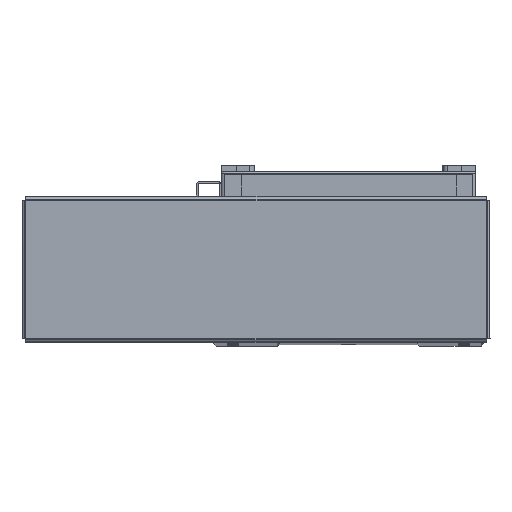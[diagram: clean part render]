
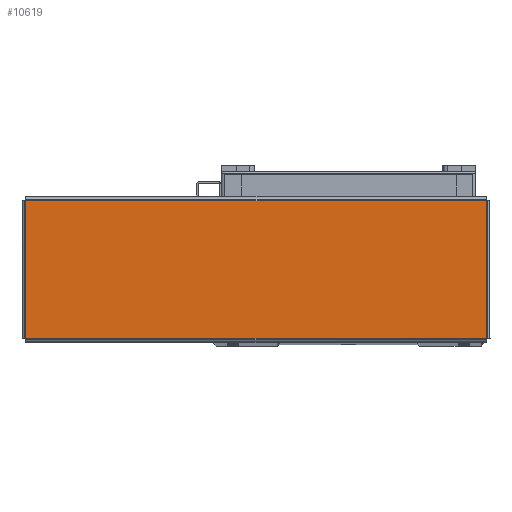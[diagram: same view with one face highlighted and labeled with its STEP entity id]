
A CAD part, top view. The second image highlights one B-rep face of the part: STEP entity #10619.
In plain terms, the highlighted planar face has unit normal (0, 0, 1) as drawn and (0, -1, 0) by its records, which use the part's own axes.
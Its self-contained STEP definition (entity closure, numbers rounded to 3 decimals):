
#9766 = PLANE ( 'NONE',  #17565 ) ;
#9768 = CARTESIAN_POINT ( 'NONE',  ( 0., -1.5, 0. ) ) ;
#9773 = DIRECTION ( 'NONE',  ( 0., 1., 0. ) ) ;
#9774 = DIRECTION ( 'NONE',  ( 0., 0., 1. ) ) ;
#10619 = ADVANCED_FACE ( 'NONE', ( #27355 ), #9766, .F. ) ;
#12546 = DIRECTION ( 'NONE',  ( 0., 0., -1. ) ) ;
#12617 = CARTESIAN_POINT ( 'NONE',  ( -139.263, -1.5, 41.793 ) ) ;
#13525 = CARTESIAN_POINT ( 'NONE',  ( -139.293, -1.5, -41.763 ) ) ;
#13588 = DIRECTION ( 'NONE',  ( 1., 0., 0. ) ) ;
#17565 = AXIS2_PLACEMENT_3D ( 'NONE', #9768, #9773, #9774 ) ;
#24397 = CARTESIAN_POINT ( 'NONE',  ( -139.263, -1.5, 41.763 ) ) ;
#24436 = CARTESIAN_POINT ( 'NONE',  ( -139.263, -1.5, -41.763 ) ) ;
#24568 = CARTESIAN_POINT ( 'NONE',  ( 139.263, -1.5, 41.763 ) ) ;
#24574 = CARTESIAN_POINT ( 'NONE',  ( 139.263, -1.5, -41.763 ) ) ;
#27355 = FACE_OUTER_BOUND ( 'NONE', #43440, .T. ) ;
#31216 = EDGE_CURVE ( 'NONE', #33004, #33067, #36593, .T. ) ;
#31233 = EDGE_CURVE ( 'NONE', #33020, #33004, #36615, .T. ) ;
#31262 = EDGE_CURVE ( 'NONE', #33092, #33020, #36605, .T. ) ;
#31267 = EDGE_CURVE ( 'NONE', #33067, #33092, #36680, .T. ) ;
#33004 = VERTEX_POINT ( 'NONE', #24436 ) ;
#33020 = VERTEX_POINT ( 'NONE', #24397 ) ;
#33067 = VERTEX_POINT ( 'NONE', #24574 ) ;
#33092 = VERTEX_POINT ( 'NONE', #24568 ) ;
#36593 = LINE ( 'NONE', #13525, #36601 ) ;
#36601 = VECTOR ( 'NONE', #13588, 1000. ) ;
#36605 = LINE ( 'NONE', #49490, #36625 ) ;
#36615 = LINE ( 'NONE', #12617, #36648 ) ;
#36625 = VECTOR ( 'NONE', #49608, 1000. ) ;
#36648 = VECTOR ( 'NONE', #12546, 1000. ) ;
#36670 = VECTOR ( 'NONE', #49545, 1000. ) ;
#36680 = LINE ( 'NONE', #49589, #36670 ) ;
#38073 = ORIENTED_EDGE ( 'NONE', *, *, #31216, .T. ) ;
#38086 = ORIENTED_EDGE ( 'NONE', *, *, #31233, .T. ) ;
#38089 = ORIENTED_EDGE ( 'NONE', *, *, #31262, .T. ) ;
#38098 = ORIENTED_EDGE ( 'NONE', *, *, #31267, .T. ) ;
#43440 = EDGE_LOOP ( 'NONE', ( #38098, #38089, #38086, #38073 ) ) ;
#49490 = CARTESIAN_POINT ( 'NONE',  ( 139.293, -1.5, 41.763 ) ) ;
#49545 = DIRECTION ( 'NONE',  ( 0., 0., 1. ) ) ;
#49589 = CARTESIAN_POINT ( 'NONE',  ( 139.263, -1.5, -41.793 ) ) ;
#49608 = DIRECTION ( 'NONE',  ( -1., 0., 0. ) ) ;
